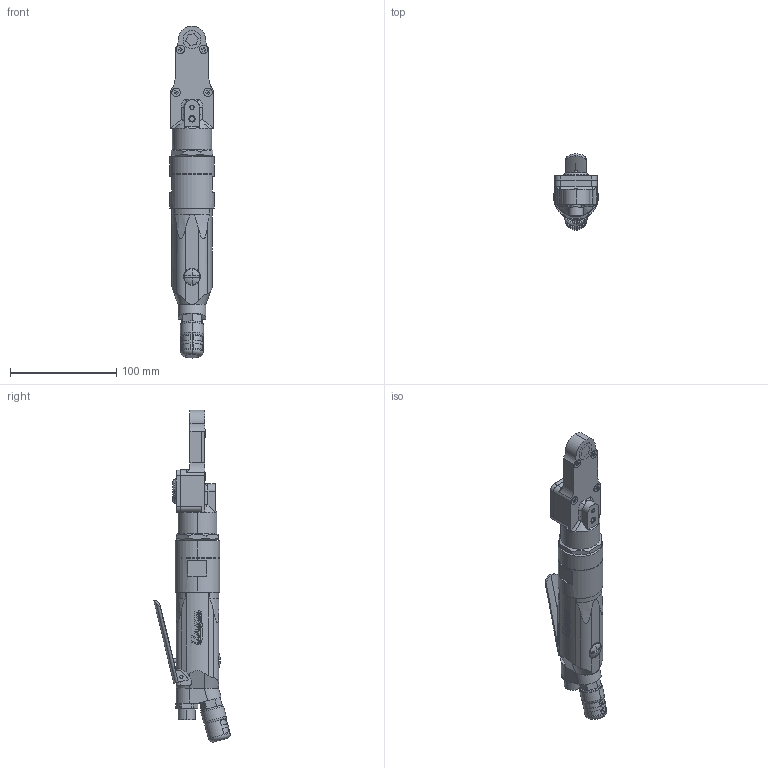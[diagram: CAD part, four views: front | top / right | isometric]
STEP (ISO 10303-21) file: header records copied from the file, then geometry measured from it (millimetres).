
FILE_DESCRIPTION (( 'STEP AP214' ), '1' );
FILE_NAME ('UGW-6N(外観図).STEP', '2015-11-24T04:17:13', ( 'GIKAI' ), ( 'Hewlett-Packard Company' ), 'SwSTEP 2.0', 'SolidWorks 2015', '' );
FILE_SCHEMA (( 'AUTOMOTIVE_DESIGN' ));
Length unit declared in the file: millimetre
Products named in the file (10): UGW6N; ねじ頭; 茶色UGW－６N; ソケット歯車; カサ歯車ケース; 5001071_UGW-8N; 9703210_UGW-8N; 2460250_UGW-6N; 2330291_UGW-8N; UGW-6N(外観図)
Assembly tree (12 placements, depth 3):
  UGW-6N(外観図)
    2330291_UGW-8N
    2460250_UGW-6N
    9703210_UGW-8N
    5001071_UGW-8N
    UGW6N
      カサ歯車ケース
      ソケット歯車
      茶色UGW－６N
      ねじ頭  x4
Bounding box: 42 x 71.98 x 312.83 mm (x, y, z)
Volume: 267124.6 mm3; surface area: 64099.6 mm2
Topology: 11 solids, 13 shells, 735 faces, 1888 edges, 1239 vertices
Faces by surface type: plane 371, cylinder 269, cone 42, bspline 29, torus 22, sphere 2
Entity records: 26657 total; most frequent: CARTESIAN_POINT 7558, ORIENTED_EDGE 3520, DIRECTION 3265, EDGE_CURVE 1760, AXIS2_PLACEMENT_3D 1221, VERTEX_POINT 1155, LINE 823, VECTOR 823
